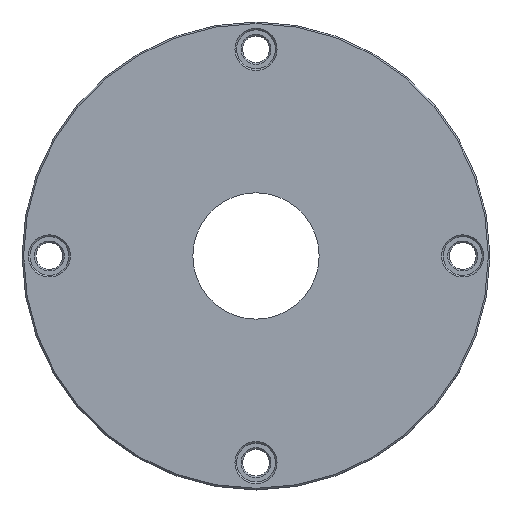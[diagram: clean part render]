
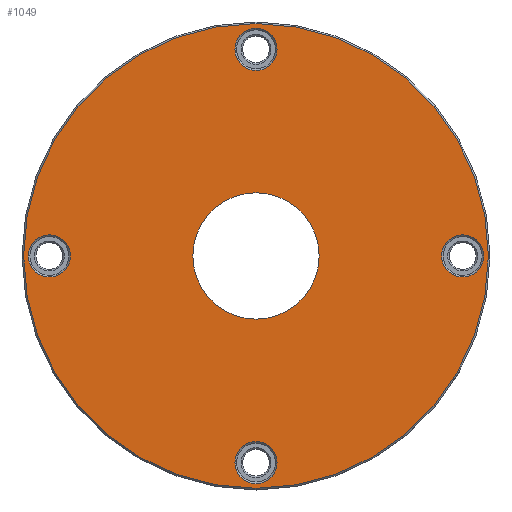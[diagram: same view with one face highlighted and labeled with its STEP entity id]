
A CAD part, top view. The second image highlights one B-rep face of the part: STEP entity #1049.
In plain terms, the highlighted planar face has unit normal (0, 0, 1).
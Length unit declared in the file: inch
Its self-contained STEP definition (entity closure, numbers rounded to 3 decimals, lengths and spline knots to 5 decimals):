
#154=CARTESIAN_POINT('',(0.,0.,0.));
#155=DIRECTION('',(0.,0.,1.));
#156=DIRECTION('',(0.,1.,0.));
#157=AXIS2_PLACEMENT_3D('',#154,#155,#156);
#159=CARTESIAN_POINT('',(0.,0.,0.));
#160=DIRECTION('',(0.,0.,1.));
#161=DIRECTION('',(0.,-1.,0.));
#162=AXIS2_PLACEMENT_3D('',#159,#160,#161);
#164=CARTESIAN_POINT('',(0.,0.,0.));
#165=DIRECTION('',(0.,0.,-1.));
#166=DIRECTION('',(0.,1.,0.));
#167=AXIS2_PLACEMENT_3D('',#164,#165,#166);
#169=CARTESIAN_POINT('',(0.,0.,0.));
#170=DIRECTION('',(0.,0.,-1.));
#171=DIRECTION('',(0.,-1.,0.));
#172=AXIS2_PLACEMENT_3D('',#169,#170,#171);
#174=CARTESIAN_POINT('',(2.65,0.,0.));
#175=DIRECTION('',(0.,0.,-1.));
#176=DIRECTION('',(1.,0.,0.));
#177=AXIS2_PLACEMENT_3D('',#174,#175,#176);
#179=CARTESIAN_POINT('',(2.65,0.,0.));
#180=DIRECTION('',(0.,0.,-1.));
#181=DIRECTION('',(-1.,0.,0.));
#182=AXIS2_PLACEMENT_3D('',#179,#180,#181);
#184=CARTESIAN_POINT('',(0.,2.65,0.));
#185=DIRECTION('',(0.,0.,-1.));
#186=DIRECTION('',(1.,0.,0.));
#187=AXIS2_PLACEMENT_3D('',#184,#185,#186);
#189=CARTESIAN_POINT('',(0.,2.65,0.));
#190=DIRECTION('',(0.,0.,-1.));
#191=DIRECTION('',(-1.,0.,0.));
#192=AXIS2_PLACEMENT_3D('',#189,#190,#191);
#194=CARTESIAN_POINT('',(-2.65,0.,0.));
#195=DIRECTION('',(0.,0.,-1.));
#196=DIRECTION('',(1.,0.,0.));
#197=AXIS2_PLACEMENT_3D('',#194,#195,#196);
#199=CARTESIAN_POINT('',(-2.65,0.,0.));
#200=DIRECTION('',(0.,0.,-1.));
#201=DIRECTION('',(-1.,0.,0.));
#202=AXIS2_PLACEMENT_3D('',#199,#200,#201);
#204=CARTESIAN_POINT('',(0.,-2.65,0.));
#205=DIRECTION('',(0.,0.,-1.));
#206=DIRECTION('',(1.,0.,0.));
#207=AXIS2_PLACEMENT_3D('',#204,#205,#206);
#209=CARTESIAN_POINT('',(0.,-2.65,0.));
#210=DIRECTION('',(0.,0.,-1.));
#211=DIRECTION('',(-1.,0.,0.));
#212=AXIS2_PLACEMENT_3D('',#209,#210,#211);
#658=CARTESIAN_POINT('',(0.,0.81,0.));
#659=CARTESIAN_POINT('',(0.,-0.81,0.));
#660=VERTEX_POINT('',#658);
#661=VERTEX_POINT('',#659);
#686=CARTESIAN_POINT('',(0.,2.98,0.));
#687=CARTESIAN_POINT('',(0.,-2.98,0.));
#688=VERTEX_POINT('',#686);
#689=VERTEX_POINT('',#687);
#730=CARTESIAN_POINT('',(2.92,0.,0.));
#731=CARTESIAN_POINT('',(2.38,0.,0.));
#732=VERTEX_POINT('',#730);
#733=VERTEX_POINT('',#731);
#758=CARTESIAN_POINT('',(0.27,2.65,0.));
#759=CARTESIAN_POINT('',(-0.27,2.65,0.));
#760=VERTEX_POINT('',#758);
#761=VERTEX_POINT('',#759);
#786=CARTESIAN_POINT('',(-2.38,0.,0.));
#787=CARTESIAN_POINT('',(-2.92,0.,0.));
#788=VERTEX_POINT('',#786);
#789=VERTEX_POINT('',#787);
#814=CARTESIAN_POINT('',(0.27,-2.65,0.));
#815=CARTESIAN_POINT('',(-0.27,-2.65,0.));
#816=VERTEX_POINT('',#814);
#817=VERTEX_POINT('',#815);
#1009=CARTESIAN_POINT('',(0.,0.,0.));
#1010=DIRECTION('',(0.,0.,-1.));
#1011=DIRECTION('',(0.,-1.,0.));
#1012=AXIS2_PLACEMENT_3D('',#1009,#1010,#1011);
#1013=PLANE('',#1012);
#1014=ORIENTED_EDGE('',*,*,#999,.F.);
#1016=ORIENTED_EDGE('',*,*,#1015,.F.);
#1017=EDGE_LOOP('',(#1014,#1016));
#1018=FACE_OUTER_BOUND('',#1017,.F.);
#1020=ORIENTED_EDGE('',*,*,#1019,.F.);
#1022=ORIENTED_EDGE('',*,*,#1021,.F.);
#1023=EDGE_LOOP('',(#1020,#1022));
#1024=FACE_BOUND('',#1023,.F.);
#1026=ORIENTED_EDGE('',*,*,#1025,.F.);
#1028=ORIENTED_EDGE('',*,*,#1027,.F.);
#1029=EDGE_LOOP('',(#1026,#1028));
#1030=FACE_BOUND('',#1029,.F.);
#1032=ORIENTED_EDGE('',*,*,#1031,.F.);
#1034=ORIENTED_EDGE('',*,*,#1033,.F.);
#1035=EDGE_LOOP('',(#1032,#1034));
#1036=FACE_BOUND('',#1035,.F.);
#1038=ORIENTED_EDGE('',*,*,#1037,.F.);
#1040=ORIENTED_EDGE('',*,*,#1039,.F.);
#1041=EDGE_LOOP('',(#1038,#1040));
#1042=FACE_BOUND('',#1041,.F.);
#1044=ORIENTED_EDGE('',*,*,#1043,.F.);
#1046=ORIENTED_EDGE('',*,*,#1045,.F.);
#1047=EDGE_LOOP('',(#1044,#1046));
#1048=FACE_BOUND('',#1047,.F.);
#1049=ADVANCED_FACE('',(#1018,#1024,#1030,#1036,#1042,#1048),#1013,.F.);
#158=CIRCLE('',#157,2.98);
#163=CIRCLE('',#162,2.98);
#168=CIRCLE('',#167,0.81);
#173=CIRCLE('',#172,0.81);
#178=CIRCLE('',#177,0.27);
#183=CIRCLE('',#182,0.27);
#188=CIRCLE('',#187,0.27);
#193=CIRCLE('',#192,0.27);
#198=CIRCLE('',#197,0.27);
#203=CIRCLE('',#202,0.27);
#208=CIRCLE('',#207,0.27);
#213=CIRCLE('',#212,0.27);
#999=EDGE_CURVE('',#688,#689,#158,.T.);
#1015=EDGE_CURVE('',#689,#688,#163,.T.);
#1019=EDGE_CURVE('',#660,#661,#168,.T.);
#1021=EDGE_CURVE('',#661,#660,#173,.T.);
#1025=EDGE_CURVE('',#732,#733,#178,.T.);
#1027=EDGE_CURVE('',#733,#732,#183,.T.);
#1031=EDGE_CURVE('',#760,#761,#188,.T.);
#1033=EDGE_CURVE('',#761,#760,#193,.T.);
#1037=EDGE_CURVE('',#788,#789,#198,.T.);
#1039=EDGE_CURVE('',#789,#788,#203,.T.);
#1043=EDGE_CURVE('',#816,#817,#208,.T.);
#1045=EDGE_CURVE('',#817,#816,#213,.T.);
